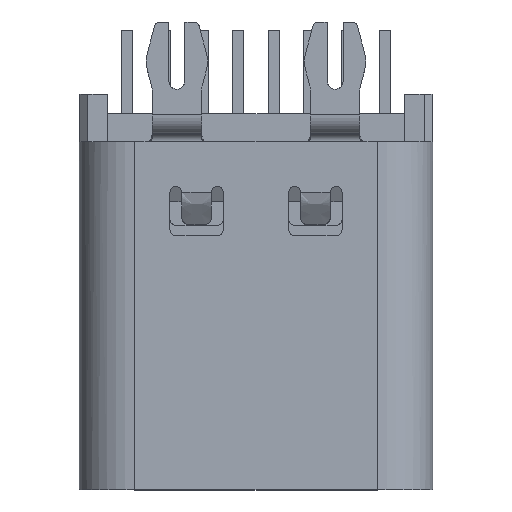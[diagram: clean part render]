
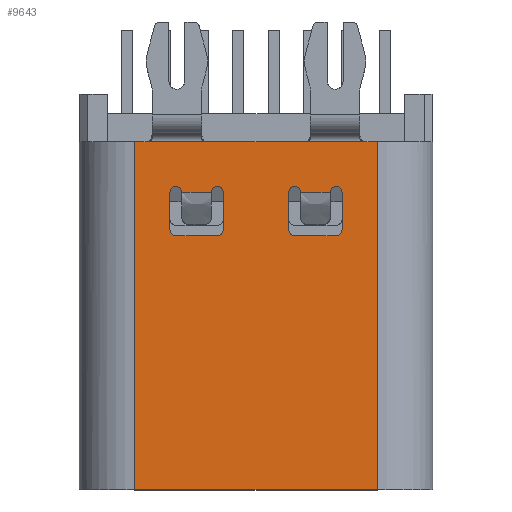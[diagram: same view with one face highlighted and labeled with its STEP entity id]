
A CAD part, top view. The second image highlights one B-rep face of the part: STEP entity #9643.
In plain terms, the highlighted planar face has unit normal (0, 0, 1).
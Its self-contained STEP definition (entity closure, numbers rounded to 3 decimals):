
#341=DIRECTION('',(0.,-1.,0.));
#342=VECTOR('',#341,8.799);
#343=CARTESIAN_POINT('',(-3.07,3.674,1.13));
#344=LINE('',#343,#342);
#577=DIRECTION('',(0.,1.,0.));
#578=VECTOR('',#577,8.799);
#579=CARTESIAN_POINT('',(3.07,-5.125,1.13));
#580=LINE('',#579,#578);
#2215=DIRECTION('',(-1.,0.,0.));
#2216=VECTOR('',#2215,1.45);
#2217=CARTESIAN_POINT('',(2.725,3.674,1.13));
#2218=LINE('',#2217,#2216);
#2219=CARTESIAN_POINT('',(1.275,3.674,1.13));
#2239=CARTESIAN_POINT('',(2.725,3.674,1.13));
#2241=DIRECTION('',(-1.,0.,0.));
#2242=VECTOR('',#2241,6.14);
#2243=CARTESIAN_POINT('',(3.07,-5.125,1.13));
#2244=LINE('',#2243,#2242);
#2245=DIRECTION('',(1.,0.,0.));
#2246=VECTOR('',#2245,0.345);
#2247=CARTESIAN_POINT('',(-3.07,3.674,1.13));
#2248=LINE('',#2247,#2246);
#2249=DIRECTION('',(1.,0.,0.));
#2250=VECTOR('',#2249,2.55);
#2251=CARTESIAN_POINT('',(-1.275,3.674,1.13));
#2252=LINE('',#2251,#2250);
#2253=DIRECTION('',(1.,0.,0.));
#2254=VECTOR('',#2253,0.345);
#2255=CARTESIAN_POINT('',(2.725,3.674,1.13));
#2256=LINE('',#2255,#2254);
#2257=CARTESIAN_POINT('',(-2.025,2.391,1.13));
#2258=DIRECTION('',(0.,0.,-1.));
#2259=DIRECTION('',(-1.,0.,0.));
#2260=AXIS2_PLACEMENT_3D('',#2257,#2258,#2259);
#2262=DIRECTION('',(0.,1.,0.));
#2263=VECTOR('',#2262,0.947);
#2264=CARTESIAN_POINT('',(-2.175,1.444,1.13));
#2265=LINE('',#2264,#2263);
#2266=CARTESIAN_POINT('',(-2.025,1.444,1.13));
#2267=DIRECTION('',(0.,0.,-1.));
#2268=DIRECTION('',(0.,-1.,0.));
#2269=AXIS2_PLACEMENT_3D('',#2266,#2267,#2268);
#2271=DIRECTION('',(-1.,0.,0.));
#2272=VECTOR('',#2271,1.05);
#2273=CARTESIAN_POINT('',(-0.975,1.294,
1.13));
#2274=LINE('',#2273,#2272);
#2275=CARTESIAN_POINT('',(-0.975,1.444,
1.13));
#2276=DIRECTION('',(0.,0.,-1.));
#2277=DIRECTION('',(1.,0.,0.));
#2278=AXIS2_PLACEMENT_3D('',#2275,#2276,#2277);
#2280=DIRECTION('',(0.,-1.,0.));
#2281=VECTOR('',#2280,0.947);
#2282=CARTESIAN_POINT('',(-0.825,2.391,
1.13));
#2283=LINE('',#2282,#2281);
#2284=CARTESIAN_POINT('',(-0.975,2.391,
1.13));
#2285=DIRECTION('',(0.,0.,-1.));
#2286=DIRECTION('',(-1.,0.,0.));
#2287=AXIS2_PLACEMENT_3D('',#2284,#2285,#2286);
#2289=DIRECTION('',(-1.,0.,0.));
#2290=VECTOR('',#2289,0.75);
#2291=CARTESIAN_POINT('',(-1.125,2.391,1.13));
#2292=LINE('',#2291,#2290);
#2293=CARTESIAN_POINT('',(0.975,2.391,1.13));
#2294=DIRECTION('',(0.,0.,-1.));
#2295=DIRECTION('',(-1.,0.,0.));
#2296=AXIS2_PLACEMENT_3D('',#2293,#2294,#2295);
#2298=DIRECTION('',(0.,1.,0.));
#2299=VECTOR('',#2298,0.947);
#2300=CARTESIAN_POINT('',(0.825,1.444,1.13));
#2301=LINE('',#2300,#2299);
#2302=CARTESIAN_POINT('',(0.975,1.444,1.13));
#2303=DIRECTION('',(0.,0.,-1.));
#2304=DIRECTION('',(0.,-1.,0.));
#2305=AXIS2_PLACEMENT_3D('',#2302,#2303,#2304);
#2307=DIRECTION('',(-1.,0.,0.));
#2308=VECTOR('',#2307,1.05);
#2309=CARTESIAN_POINT('',(2.025,1.294,1.13));
#2310=LINE('',#2309,#2308);
#2311=CARTESIAN_POINT('',(2.025,1.444,1.13));
#2312=DIRECTION('',(0.,0.,-1.));
#2313=DIRECTION('',(1.,0.,0.));
#2314=AXIS2_PLACEMENT_3D('',#2311,#2312,#2313);
#2316=DIRECTION('',(0.,-1.,0.));
#2317=VECTOR('',#2316,0.947);
#2318=CARTESIAN_POINT('',(2.175,2.391,1.13));
#2319=LINE('',#2318,#2317);
#2320=CARTESIAN_POINT('',(2.025,2.391,1.13));
#2321=DIRECTION('',(0.,0.,-1.));
#2322=DIRECTION('',(-1.,0.,0.));
#2323=AXIS2_PLACEMENT_3D('',#2320,#2321,#2322);
#2325=DIRECTION('',(1.,0.,0.));
#2326=VECTOR('',#2325,0.75);
#2327=CARTESIAN_POINT('',(1.125,2.391,1.13));
#2328=LINE('',#2327,#2326);
#2338=DIRECTION('',(-1.,0.,0.));
#2339=VECTOR('',#2338,1.45);
#2340=CARTESIAN_POINT('',(-1.275,3.674,1.13));
#2341=LINE('',#2340,#2339);
#5368=VERTEX_POINT('',#2219);
#5374=VERTEX_POINT('',#2239);
#5393=CARTESIAN_POINT('',(-1.275,3.674,1.13));
#5394=CARTESIAN_POINT('',(-2.725,3.674,1.13));
#5395=VERTEX_POINT('',#5393);
#5396=VERTEX_POINT('',#5394);
#5561=CARTESIAN_POINT('',(3.07,3.674,1.13));
#5562=VERTEX_POINT('',#5561);
#5563=CARTESIAN_POINT('',(-3.07,3.674,1.13));
#5564=VERTEX_POINT('',#5563);
#5569=CARTESIAN_POINT('',(2.025,1.294,1.13));
#5570=CARTESIAN_POINT('',(0.975,1.294,1.13));
#5571=VERTEX_POINT('',#5569);
#5572=VERTEX_POINT('',#5570);
#5573=CARTESIAN_POINT('',(0.825,1.444,1.13));
#5574=CARTESIAN_POINT('',(0.825,2.391,1.13));
#5575=VERTEX_POINT('',#5573);
#5576=VERTEX_POINT('',#5574);
#5577=CARTESIAN_POINT('',(2.175,2.391,1.13));
#5578=CARTESIAN_POINT('',(2.175,1.444,1.13));
#5579=VERTEX_POINT('',#5577);
#5580=VERTEX_POINT('',#5578);
#5601=CARTESIAN_POINT('',(1.125,2.391,1.13));
#5602=VERTEX_POINT('',#5601);
#5603=CARTESIAN_POINT('',(1.875,2.391,1.13));
#5604=VERTEX_POINT('',#5603);
#5605=CARTESIAN_POINT('',(-1.125,2.391,1.13));
#5606=CARTESIAN_POINT('',(-1.875,2.391,1.13));
#5607=VERTEX_POINT('',#5605);
#5608=VERTEX_POINT('',#5606);
#5625=CARTESIAN_POINT('',(-2.025,1.294,1.13));
#5626=CARTESIAN_POINT('',(-2.175,1.444,1.13));
#5627=VERTEX_POINT('',#5625);
#5628=VERTEX_POINT('',#5626);
#5629=CARTESIAN_POINT('',(-2.175,2.391,1.13));
#5630=VERTEX_POINT('',#5629);
#5631=CARTESIAN_POINT('',(-0.825,2.391,
1.13));
#5632=CARTESIAN_POINT('',(-0.825,1.444,
1.13));
#5633=VERTEX_POINT('',#5631);
#5634=VERTEX_POINT('',#5632);
#5635=CARTESIAN_POINT('',(-0.975,1.294,
1.13));
#5636=VERTEX_POINT('',#5635);
#5914=CARTESIAN_POINT('',(-3.07,-5.125,
1.13));
#5916=VERTEX_POINT('',#5914);
#5927=CARTESIAN_POINT('',(3.07,-5.125,1.13));
#5929=VERTEX_POINT('',#5927);
#9590=CARTESIAN_POINT('',(2.89,-5.326,1.13));
#9591=DIRECTION('',(0.,0.,1.));
#9592=DIRECTION('',(-1.,0.,0.));
#9593=AXIS2_PLACEMENT_3D('',#9590,#9591,#9592);
#9594=PLANE('',#9593);
#9595=ORIENTED_EDGE('',*,*,#6801,.F.);
#9596=ORIENTED_EDGE('',*,*,#6502,.T.);
#9597=ORIENTED_EDGE('',*,*,#6558,.F.);
#9598=ORIENTED_EDGE('',*,*,#6686,.T.);
#9600=ORIENTED_EDGE('',*,*,#9599,.F.);
#9602=ORIENTED_EDGE('',*,*,#9601,.T.);
#9603=ORIENTED_EDGE('',*,*,#9576,.F.);
#9604=ORIENTED_EDGE('',*,*,#6777,.T.);
#9605=EDGE_LOOP('',(#9595,#9596,#9597,#9598,#9600,#9602,#9603,#9604));
#9606=FACE_OUTER_BOUND('',#9605,.F.);
#9608=ORIENTED_EDGE('',*,*,#9607,.F.);
#9610=ORIENTED_EDGE('',*,*,#9609,.F.);
#9612=ORIENTED_EDGE('',*,*,#9611,.F.);
#9614=ORIENTED_EDGE('',*,*,#9613,.F.);
#9616=ORIENTED_EDGE('',*,*,#9615,.F.);
#9618=ORIENTED_EDGE('',*,*,#9617,.F.);
#9620=ORIENTED_EDGE('',*,*,#9619,.F.);
#9622=ORIENTED_EDGE('',*,*,#9621,.T.);
#9623=EDGE_LOOP('',(#9608,#9610,#9612,#9614,#9616,#9618,#9620,#9622));
#9624=FACE_BOUND('',#9623,.F.);
#9626=ORIENTED_EDGE('',*,*,#9625,.F.);
#9628=ORIENTED_EDGE('',*,*,#9627,.F.);
#9630=ORIENTED_EDGE('',*,*,#9629,.F.);
#9632=ORIENTED_EDGE('',*,*,#9631,.F.);
#9634=ORIENTED_EDGE('',*,*,#9633,.F.);
#9636=ORIENTED_EDGE('',*,*,#9635,.F.);
#9638=ORIENTED_EDGE('',*,*,#9637,.F.);
#9640=ORIENTED_EDGE('',*,*,#9639,.F.);
#9641=EDGE_LOOP('',(#9626,#9628,#9630,#9632,#9634,#9636,#9638,#9640));
#9642=FACE_BOUND('',#9641,.F.);
#2261=CIRCLE('',#2260,0.15);
#2270=CIRCLE('',#2269,0.15);
#2279=CIRCLE('',#2278,0.15);
#2288=CIRCLE('',#2287,0.15);
#2297=CIRCLE('',#2296,0.15);
#2306=CIRCLE('',#2305,0.15);
#2315=CIRCLE('',#2314,0.15);
#2324=CIRCLE('',#2323,0.15);
#6502=EDGE_CURVE('',#5929,#5916,#2244,.T.);
#6558=EDGE_CURVE('',#5564,#5916,#344,.T.);
#6686=EDGE_CURVE('',#5564,#5396,#2248,.T.);
#6777=EDGE_CURVE('',#5374,#5562,#2256,.T.);
#6801=EDGE_CURVE('',#5929,#5562,#580,.T.);
#9576=EDGE_CURVE('',#5374,#5368,#2218,.T.);
#9599=EDGE_CURVE('',#5395,#5396,#2341,.T.);
#9601=EDGE_CURVE('',#5395,#5368,#2252,.T.);
#9607=EDGE_CURVE('',#5630,#5608,#2261,.T.);
#9609=EDGE_CURVE('',#5628,#5630,#2265,.T.);
#9611=EDGE_CURVE('',#5627,#5628,#2270,.T.);
#9613=EDGE_CURVE('',#5636,#5627,#2274,.T.);
#9615=EDGE_CURVE('',#5634,#5636,#2279,.T.);
#9617=EDGE_CURVE('',#5633,#5634,#2283,.T.);
#9619=EDGE_CURVE('',#5607,#5633,#2288,.T.);
#9621=EDGE_CURVE('',#5607,#5608,#2292,.T.);
#9625=EDGE_CURVE('',#5576,#5602,#2297,.T.);
#9627=EDGE_CURVE('',#5575,#5576,#2301,.T.);
#9629=EDGE_CURVE('',#5572,#5575,#2306,.T.);
#9631=EDGE_CURVE('',#5571,#5572,#2310,.T.);
#9633=EDGE_CURVE('',#5580,#5571,#2315,.T.);
#9635=EDGE_CURVE('',#5579,#5580,#2319,.T.);
#9637=EDGE_CURVE('',#5604,#5579,#2324,.T.);
#9639=EDGE_CURVE('',#5602,#5604,#2328,.T.);
#9643=ADVANCED_FACE('',(#9606,#9624,#9642),#9594,.T.);
